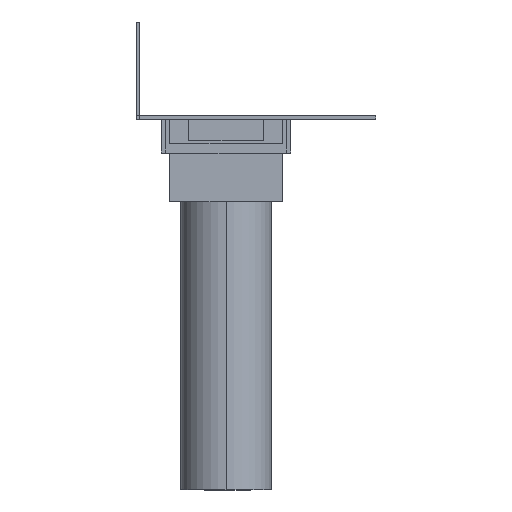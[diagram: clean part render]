
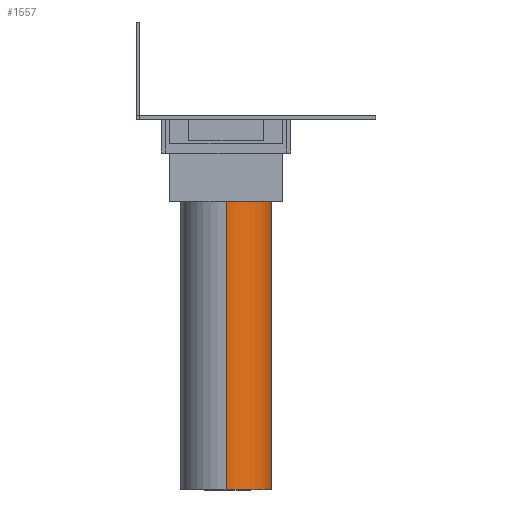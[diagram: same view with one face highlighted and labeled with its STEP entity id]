
A CAD part, left-side view. The second image highlights one B-rep face of the part: STEP entity #1557.
In plain terms, the highlighted cylindrical face has radius 24.15 mm (diameter 48.3 mm), a partial arc.
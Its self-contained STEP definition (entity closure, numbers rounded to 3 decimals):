
#137=FACE_OUTER_BOUND('',#239,.T.);
#239=EDGE_LOOP('',(#1117,#1118,#1119,#1120));
#341=LINE('',#2255,#541);
#342=LINE('',#2258,#542);
#541=VECTOR('',#1817,304.8);
#542=VECTOR('',#1820,304.8);
#741=CIRCLE('',#1694,24.15);
#742=CIRCLE('',#1695,24.15);
#757=VERTEX_POINT('',#2251);
#758=VERTEX_POINT('',#2252);
#759=VERTEX_POINT('',#2254);
#760=VERTEX_POINT('',#2256);
#901=EDGE_CURVE('',#757,#758,#741,.T.);
#902=EDGE_CURVE('',#759,#757,#341,.T.);
#903=EDGE_CURVE('',#760,#759,#742,.T.);
#904=EDGE_CURVE('',#758,#760,#342,.T.);
#1117=ORIENTED_EDGE('',*,*,#901,.F.);
#1118=ORIENTED_EDGE('',*,*,#902,.F.);
#1119=ORIENTED_EDGE('',*,*,#903,.F.);
#1120=ORIENTED_EDGE('',*,*,#904,.F.);
#1549=CYLINDRICAL_SURFACE('',#1693,24.15);
#1557=ADVANCED_FACE('',(#137),#1549,.T.);
#1693=AXIS2_PLACEMENT_3D('',#2250,#1813,#1814);
#1694=AXIS2_PLACEMENT_3D('',#2253,#1815,#1816);
#1695=AXIS2_PLACEMENT_3D('',#2257,#1818,#1819);
#1813=DIRECTION('center_axis',(0.,0.,1.));
#1814=DIRECTION('ref_axis',(-1.,0.,0.));
#1815=DIRECTION('center_axis',(0.,0.,1.));
#1816=DIRECTION('ref_axis',(-1.,0.,0.));
#1817=DIRECTION('',(0.,0.,1.));
#1818=DIRECTION('center_axis',(0.,0.,-1.));
#1819=DIRECTION('ref_axis',(-1.,0.,0.));
#1820=DIRECTION('',(0.,0.,-1.));
#2250=CARTESIAN_POINT('Origin',(0.,0.,
-200.));
#2251=CARTESIAN_POINT('',(-24.15,0.,-46.));
#2252=CARTESIAN_POINT('',(24.15,0.,-46.));
#2253=CARTESIAN_POINT('Origin',(0.,0.,
-46.));
#2254=CARTESIAN_POINT('',(-24.15,0.,-200.));
#2255=CARTESIAN_POINT('',(-24.15,0.,-200.));
#2256=CARTESIAN_POINT('',(24.15,0.,-200.));
#2257=CARTESIAN_POINT('Origin',(0.,0.,
-200.));
#2258=CARTESIAN_POINT('',(24.15,0.,-46.));
